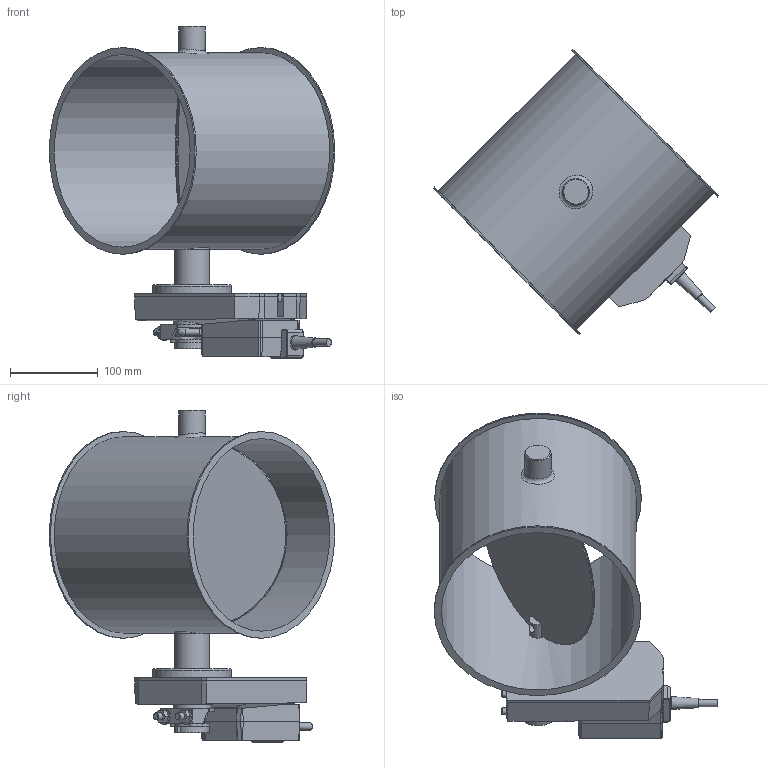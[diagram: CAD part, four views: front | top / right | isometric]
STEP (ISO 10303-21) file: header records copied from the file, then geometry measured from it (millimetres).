
FILE_DESCRIPTION((''),'2;1');
FILE_NAME('U:\Wolfgang\Marcel-3D\fertig\Kapitel 8\2221215.stp','2012-01-13T11:11:06',('iwienholt'),(''),'Autodesk Inventor 2010','Autodesk Inventor 2010','');
FILE_SCHEMA(('AUTOMOTIVE_DESIGN { 1 0 10303 214 1 1 1 1 }'));
Length unit declared in the file: millimetre
Products named in the file (8): 2221215; Bolzen D20; Scheibe224b; 2221211-1; GM24A-Antrieb; Distanzstück D; GM24A-GM_A_standard_MF_MP_1cable; BuchseD20 90-50
Assembly tree (8 placements, depth 3):
  2221215
    Bolzen D20  x2
    Scheibe224b
    2221211-1
    GM24A-Antrieb
      Distanzstück D
      GM24A-GM_A_standard_MF_MP_1cable
      BuchseD20 90-50
Bounding box: 324.54 x 324.58 x 377.4 mm (x, y, z)
Volume: 1439418 mm3; surface area: 581235.3 mm2
Topology: 7 solids, 7 shells, 411 faces, 1058 edges, 689 vertices
Faces by surface type: plane 249, cylinder 105, bspline 42, cone 14, torus 1
Full cylindrical faces by diameter (mm): 3.6 x2, 4.2 x4, 5.1 x1, 6 x4, 7.25 x4, 8 x4, 8.4 x1, 9 x4, 9.742 x1, 10 x6, 10.083 x1, 18.2 x2, 20 x4, 20.5 x1, 27.01 x1, 30 x2, 30.042 x1, 34 x1, 34.5 x1, 40 x2, 43 x3, 90 x1, 219 x2, 223 x1, 235 x2
Entity records: 13012 total; most frequent: CARTESIAN_POINT 3127, ORIENTED_EDGE 1880, DIRECTION 1856, EDGE_CURVE 940, VERTEX_POINT 651, AXIS2_PLACEMENT_3D 625, VECTOR 606, LINE 606
